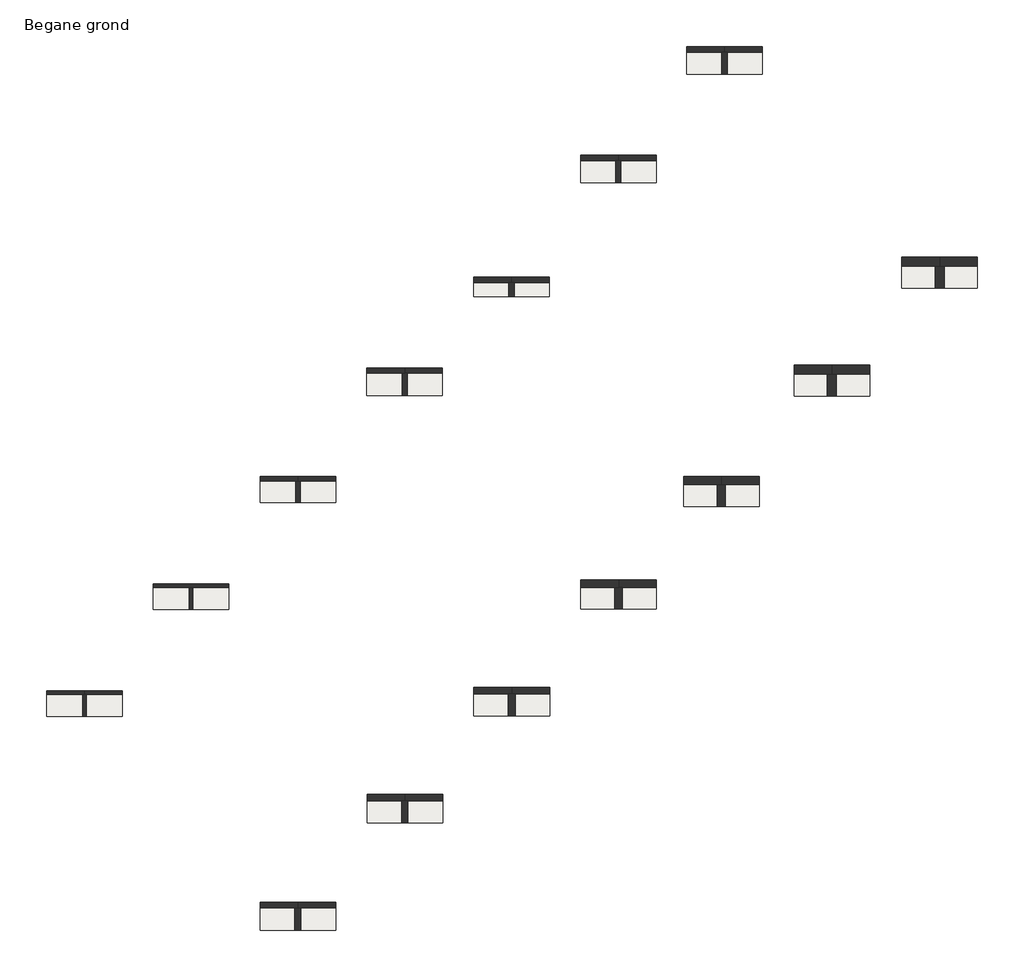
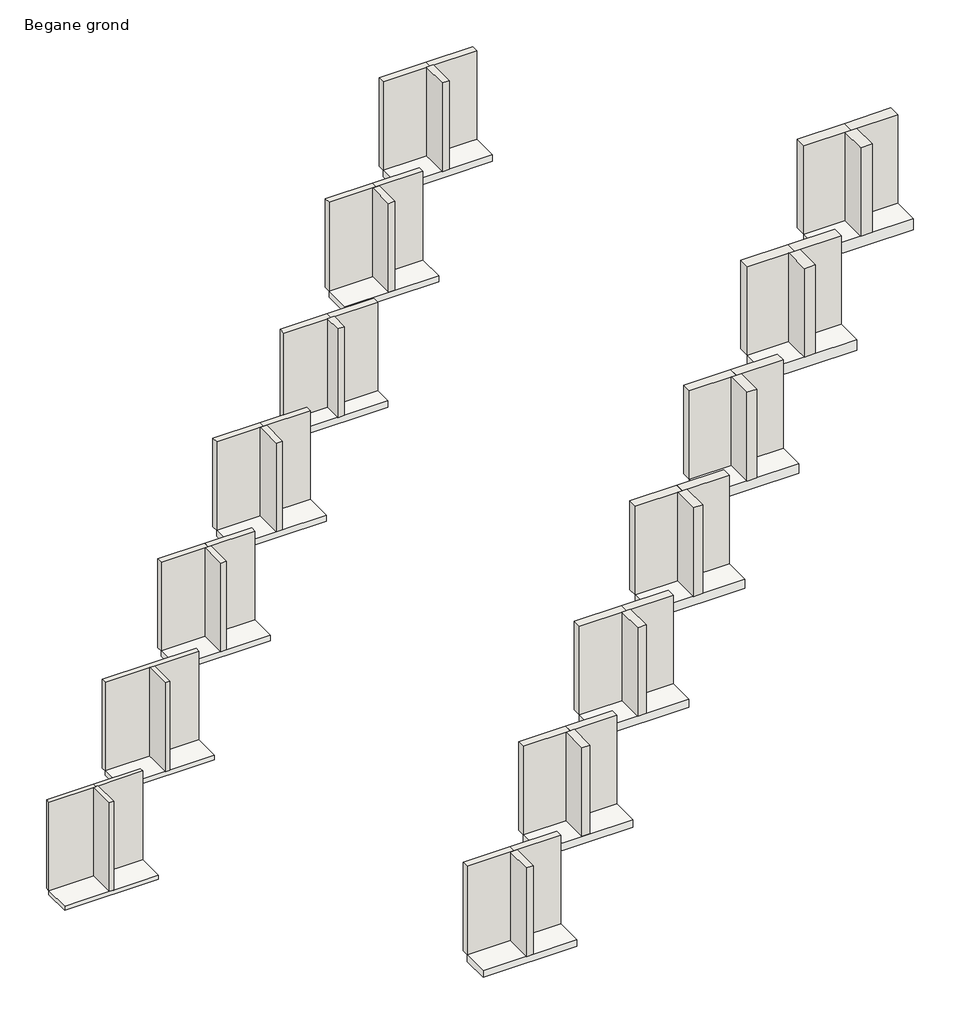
# One storey: 41 walls, 14 slabs.
"""IFC4 building model written with IfcOpenShell, lengths in millimetres."""

from ifc_helpers import new_model, si_unit, frame, origin, origin_with_axes, place, context, project, spatial, polyline, outline, extrude, element, save

model = new_model("IFC4")

# Units and contexts
model_context = context("Model", 3, world=origin())
ifc_project = project(units=[si_unit("LENGTHUNIT", "METRE", prefix="MILLI")], contexts=[model_context])

# Site, building, storey
site = spatial("IfcSite", under=ifc_project)
building = spatial("IfcBuilding", under=site)
storey = spatial("IfcBuildingStorey", under=building, Name="Begane grond", Elevation=0.0)

# Slabs
placement = place(None, origin())
element("IfcSlab", 1, ObjectType="NLRS_23_FL_Naturoll 032_90x580x3500mm", at=placement, inside=storey, context=model_context, shape_type="SweptSolid", body=[
    extrude(outline(polyline([(-2500.3350736, -6538.5333978), (-4500.3350736, -6538.5333978), (-4500.3350736, -5958.5333978), (-2500.3350736, -5958.5333978), (-2500.3350736, -6538.5333978)])), frame((0.0, 0.0, -90.0), z_axis=(0.0, 0.0, 1.0), x_axis=(1.0, 0.0, 0.0)), (0.0, 0.0, 1.0), 90.0),
])
element("IfcSlab", 2, ObjectType="NLRS_23_FL_Naturoll 032_100x580x2700mm", at=placement, inside=storey, context=model_context, shape_type="SweptSolid", body=[
    extrude(outline(polyline([(328.0920512, -3710.1062731), (-1671.9079488, -3710.1062731), (-1671.9079488, -3130.1062731), (328.0920512, -3130.1062731), (328.0920512, -3710.1062731)])), frame((0.0, 0.0, -100.0), z_axis=(0.0, 0.0, 1.0), x_axis=(1.0, 0.0, 0.0)), (0.0, 0.0, 1.0), 100.0),
])
element("IfcSlab", 3, ObjectType="NLRS_23_FL_Naturoll 032_120x580x2700mm", at=placement, inside=storey, context=model_context, shape_type="SweptSolid", body=[
    extrude(outline(polyline([(3156.5191759, -881.6791483), (1156.5191759, -881.6791483), (1156.5191759, -301.6791483), (3156.5191759, -301.6791483), (3156.5191759, -881.6791483)])), frame((0.0, 0.0, -120.0), z_axis=(0.0, 0.0, 1.0), x_axis=(1.0, 0.0, 0.0)), (0.0, 0.0, 1.0), 120.0),
])
element("IfcSlab", 4, ObjectType="NLRS_23_FL_Naturoll 032_135x590x2700mm", at=placement, inside=storey, context=model_context, shape_type="SweptSolid", body=[
    extrude(outline(polyline([(5984.9463006, 1956.7479764), (3984.9463006, 1956.7479764), (3984.9463006, 2546.7479764), (5984.9463006, 2546.7479764), (5984.9463006, 1956.7479764)])), frame((0.0, 0.0, -135.0), z_axis=(0.0, 0.0, 1.0), x_axis=(1.0, 0.0, 0.0)), (0.0, 0.0, 1.0), 135.0),
])
element("IfcSlab", 5, ObjectType="NLRS_23_FL_Naturoll 032_140x380x2700mm", at=placement, inside=storey, context=model_context, shape_type="SweptSolid", body=[
    extrude(outline(polyline([(8813.3734254, 4575.1751012), (6813.3734254, 4575.1751012), (6813.3734254, 4955.1751012), (8813.3734254, 4955.1751012), (8813.3734254, 4575.1751012)])), frame((0.0, 0.0, -140.0), z_axis=(0.0, 0.0, 1.0), x_axis=(1.0, 0.0, 0.0)), (0.0, 0.0, 1.0), 140.0),
])
element("IfcSlab", 6, ObjectType="NLRS_23_FL_Naturoll 032_140x580x2700mm", at=placement, inside=storey, context=model_context, shape_type="SweptSolid", body=[
    extrude(outline(polyline([(11641.8005501, 7603.6022259), (9641.8005501, 7603.6022259), (9641.8005501, 8183.6022259), (11641.8005501, 8183.6022259), (11641.8005501, 7603.6022259)])), frame((0.0, 0.0, -140.0), z_axis=(0.0, 0.0, 1.0), x_axis=(1.0, 0.0, 0.0)), (0.0, 0.0, 1.0), 140.0),
])
element("IfcSlab", 7, ObjectType="NLRS_23_FL_Naturoll 032_150x590x2700mm", at=placement, inside=storey, context=model_context, shape_type="SweptSolid", body=[
    extrude(outline(polyline([(3156.5191759, -11615.3876473), (3156.5191759, -12205.3876473), (1156.5191759, -12205.3876473), (1156.5191759, -11615.3876473), (3156.5191759, -11615.3876473)])), frame((0.0, 0.0, -150.0), z_axis=(0.0, 0.0, 1.0), x_axis=(1.0, 0.0, 0.0)), (0.0, 0.0, 1.0), 150.0),
])
element("IfcSlab", 8, ObjectType="NLRS_23_FL_Naturoll 032_170x580x2350mm", at=placement, inside=storey, context=model_context, shape_type="SweptSolid", body=[
    extrude(outline(polyline([(5986.6811856, -9365.2256376), (3986.6811856, -9365.2256376), (3986.6811856, -8785.2256376), (5986.6811856, -8785.2256376), (5986.6811856, -9365.2256376)])), frame((0.0, 0.0, -170.0), z_axis=(0.0, 0.0, 1.0), x_axis=(1.0, 0.0, 0.0)), (0.0, 0.0, 1.0), 170.0),
])
element("IfcSlab", 9, ObjectType="NLRS_23_FL_Naturoll 032_180x580x2200mm", at=placement, inside=storey, context=model_context, shape_type="SweptSolid", body=[
    extrude(outline(polyline([(8820.0893075, -6531.8175157), (6820.0893075, -6531.8175157), (6820.0893075, -5951.8175157), (8820.0893075, -5951.8175157), (8820.0893075, -6531.8175157)])), frame((0.0, 0.0, -180.0), z_axis=(0.0, 0.0, 1.0), x_axis=(1.0, 0.0, 0.0)), (0.0, 0.0, 1.0), 180.0),
])
element("IfcSlab", 10, ObjectType="NLRS_23_FL_Naturoll 032_200x580x2000mm", at=placement, inside=storey, context=model_context, shape_type="SweptSolid", body=[
    extrude(outline(polyline([(11648.733786, -3703.1730372), (9648.733786, -3703.1730372), (9648.733786, -3123.1730372), (11648.733786, -3123.1730372), (11648.733786, -3703.1730372)])), frame((0.0, 0.0, -200.0), z_axis=(0.0, 0.0, 1.0), x_axis=(1.0, 0.0, 0.0)), (0.0, 0.0, 1.0), 200.0),
])
element("IfcSlab", 11, ObjectType="NLRS_23_FL_Naturoll 032_210x580x2600mm", at=placement, inside=storey, context=model_context, shape_type="SweptSolid", body=[
    extrude(outline(polyline([(14372.9430839, -978.9637393), (12372.9430839, -978.9637393), (12372.9430839, -398.9637393), (14372.9430839, -398.9637393), (14372.9430839, -978.9637393)])), frame((0.0, 0.0, -210.0), z_axis=(0.0, 0.0, 1.0), x_axis=(1.0, 0.0, 0.0)), (0.0, 0.0, 1.0), 210.0),
])
element("IfcSlab", 12, ObjectType="NLRS_23_FL_Naturoll 032_150x580x2700mm", at=placement, inside=storey, context=model_context, shape_type="SweptSolid", body=[
    extrude(outline(polyline([(14451.8107776, 10475.7049126), (12451.8107776, 10475.7049126), (12451.8107776, 11055.7049126), (14451.8107776, 11055.7049126), (14451.8107776, 10475.7049126)])), frame((0.0, 0.0, -150.0), z_axis=(0.0, 0.0, 1.0), x_axis=(1.0, 0.0, 0.0)), (0.0, 0.0, 1.0), 150.0),
])
element("IfcSlab", 13, ObjectType="NLRS_23_FL_Naturoll 032_245x580x2000mm", at=placement, inside=storey, context=model_context, shape_type="SweptSolid", body=[
    extrude(outline(polyline([(20154.1249058, 4802.2180827), (18154.1249058, 4802.2180827), (18154.1249058, 5382.2180827), (20154.1249058, 5382.2180827), (20154.1249058, 4802.2180827)])), frame((0.0, 0.0, -245.0), z_axis=(0.0, 0.0, 1.0), x_axis=(1.0, 0.0, 0.0)), (0.0, 0.0, 1.0), 245.0),
])
element("IfcSlab", 14, ObjectType="NLRS_23_FL_Naturoll 032_240x580x2300mm", at=placement, inside=storey, context=model_context, shape_type="SweptSolid", body=[
    extrude(outline(polyline([(17300.9053054, 1948.9984822), (15300.9053054, 1948.9984822), (15300.9053054, 2528.9984822), (17300.9053054, 2528.9984822), (17300.9053054, 1948.9984822)])), frame((0.0, 0.0, -240.0), z_axis=(0.0, 0.0, 1.0), x_axis=(1.0, 0.0, 0.0)), (0.0, 0.0, 1.0), 240.0),
])

# Walls
element("IfcWall", 15, ObjectType="NLRS_21_WA_Naturoll 032_90x580x3500mm", at=placement, inside=storey, context=model_context, shape_type="SweptSolid", body=[
    extrude(outline(polyline([(-3500.3350736, -5958.5333978), (-4500.3350736, -5958.5333978), (-4500.3350736, -5868.5333978), (-3500.3350736, -5868.5333978), (-3500.3350736, -5958.5333978)])), origin_with_axes(), (0.0, 0.0, 1.0), 2000.0),
])
element("IfcWall", 16, ObjectType="NLRS_21_WA_Naturoll 032_90x580x3500mm", at=placement, inside=storey, context=model_context, shape_type="SweptSolid", body=[
    extrude(outline(polyline([(-2500.3350736, -5958.5333978), (-3500.3350736, -5958.5333978), (-3500.3350736, -5868.5333978), (-2500.3350736, -5868.5333978), (-2500.3350736, -5958.5333978)])), origin_with_axes(), (0.0, 0.0, 1.0), 2000.0),
])
element("IfcWall", 17, ObjectType="NLRS_21_WA_Naturoll 032_90x580x3500mm", at=placement, inside=storey, context=model_context, shape_type="SweptSolid", body=[
    extrude(outline(polyline([(-3545.3350736, -6538.5333978), (-3545.3350736, -5958.5333978), (-3455.3350736, -5958.5333978), (-3455.3350736, -6538.5333978), (-3545.3350736, -6538.5333978)])), origin_with_axes(), (0.0, 0.0, 1.0), 2000.0),
])
element("IfcWall", 18, ObjectType="NLRS_21_WA_Naturoll 032_100x580x2700mm", at=placement, inside=storey, context=model_context, shape_type="SweptSolid", body=[
    extrude(outline(polyline([(328.0920512, -3130.1062731), (-1671.9079488, -3130.1062731), (-1671.9079488, -3030.1062731), (328.0920512, -3030.1062731), (328.0920512, -3130.1062731)])), origin_with_axes(), (0.0, 0.0, 1.0), 2000.0),
])
element("IfcWall", 19, ObjectType="NLRS_21_WA_Naturoll 032_100x580x2700mm", at=placement, inside=storey, context=model_context, shape_type="SweptSolid", body=[
    extrude(outline(polyline([(-721.9079488, -3710.1062731), (-721.9079488, -3130.1062731), (-621.9079488, -3130.1062731), (-621.9079488, -3710.1062731), (-721.9079488, -3710.1062731)])), origin_with_axes(), (0.0, 0.0, 1.0), 2000.0),
])
element("IfcWall", 20, ObjectType="NLRS_21_WA_Naturoll 032_120x580x2700mm", at=placement, inside=storey, context=model_context, shape_type="SweptSolid", body=[
    extrude(outline(polyline([(2156.5191759, -301.6791483), (1156.5191759, -301.6791483), (1156.5191759, -181.6791483), (2156.5191759, -181.6791483), (2156.5191759, -301.6791483)])), origin_with_axes(), (0.0, 0.0, 1.0), 2000.0),
])
element("IfcWall", 21, ObjectType="NLRS_21_WA_Naturoll 032_120x580x2700mm", at=placement, inside=storey, context=model_context, shape_type="SweptSolid", body=[
    extrude(outline(polyline([(3156.5191759, -301.6791483), (2156.5191759, -301.6791483), (2156.5191759, -181.6791483), (3156.5191759, -181.6791483), (3156.5191759, -301.6791483)])), origin_with_axes(), (0.0, 0.0, 1.0), 2000.0),
])
element("IfcWall", 22, ObjectType="NLRS_21_WA_Naturoll 032_120x580x2700mm", at=placement, inside=storey, context=model_context, shape_type="SweptSolid", body=[
    extrude(outline(polyline([(2096.5191759, -881.6791483), (2096.5191759, -301.6791483), (2216.5191759, -301.6791483), (2216.5191759, -881.6791483), (2096.5191759, -881.6791483)])), origin_with_axes(), (0.0, 0.0, 1.0), 2000.0),
])
element("IfcWall", 23, ObjectType="NLRS_21_WA_Naturoll 032_135x590x2700mm", at=placement, inside=storey, context=model_context, shape_type="SweptSolid", body=[
    extrude(outline(polyline([(4984.9463006, 2546.7479764), (3984.9463006, 2546.7479764), (3984.9463006, 2681.7479764), (4984.9463006, 2681.7479764), (4984.9463006, 2546.7479764)])), origin_with_axes(), (0.0, 0.0, 1.0), 2000.0),
])
element("IfcWall", 24, ObjectType="NLRS_21_WA_Naturoll 032_135x590x2700mm", at=placement, inside=storey, context=model_context, shape_type="SweptSolid", body=[
    extrude(outline(polyline([(5984.9463006, 2546.7479764), (4984.9463006, 2546.7479764), (4984.9463006, 2681.7479764), (5984.9463006, 2681.7479764), (5984.9463006, 2546.7479764)])), origin_with_axes(), (0.0, 0.0, 1.0), 2000.0),
])
element("IfcWall", 25, ObjectType="NLRS_21_WA_Naturoll 032_135x590x2700mm", at=placement, inside=storey, context=model_context, shape_type="SweptSolid", body=[
    extrude(outline(polyline([(4917.4463006, 1956.7479764), (4917.4463006, 2546.7479764), (5052.4463006, 2546.7479764), (5052.4463006, 1956.7479764), (4917.4463006, 1956.7479764)])), origin_with_axes(), (0.0, 0.0, 1.0), 2000.0),
])
element("IfcWall", 26, ObjectType="NLRS_21_WA_Naturoll 032_140x380x2700mm", at=placement, inside=storey, context=model_context, shape_type="SweptSolid", body=[
    extrude(outline(polyline([(7813.3734254, 4955.1751012), (6813.3734254, 4955.1751012), (6813.3734254, 5095.1751012), (7813.3734254, 5095.1751012), (7813.3734254, 4955.1751012)])), origin_with_axes(), (0.0, 0.0, 1.0), 2000.0),
])
element("IfcWall", 27, ObjectType="NLRS_21_WA_Naturoll 032_140x380x2700mm", at=placement, inside=storey, context=model_context, shape_type="SweptSolid", body=[
    extrude(outline(polyline([(8813.3734254, 4955.1751012), (7813.3734254, 4955.1751012), (7813.3734254, 5095.1751012), (8813.3734254, 5095.1751012), (8813.3734254, 4955.1751012)])), origin_with_axes(), (0.0, 0.0, 1.0), 2000.0),
])
element("IfcWall", 28, ObjectType="NLRS_21_WA_Naturoll 032_140x380x2700mm", at=placement, inside=storey, context=model_context, shape_type="SweptSolid", body=[
    extrude(outline(polyline([(7743.3734254, 4575.1751012), (7743.3734254, 4955.1751012), (7883.3734254, 4955.1751012), (7883.3734254, 4575.1751012), (7743.3734254, 4575.1751012)])), origin_with_axes(), (0.0, 0.0, 1.0), 2000.0),
])
element("IfcWall", 29, ObjectType="NLRS_21_WA_Naturoll 032_140x580x2700mm", at=placement, inside=storey, context=model_context, shape_type="SweptSolid", body=[
    extrude(outline(polyline([(10641.8005501, 8183.6022259), (9641.8005501, 8183.6022259), (9641.8005501, 8323.6022259), (10641.8005501, 8323.6022259), (10641.8005501, 8183.6022259)])), origin_with_axes(), (0.0, 0.0, 1.0), 2000.0),
])
element("IfcWall", 30, ObjectType="NLRS_21_WA_Naturoll 032_140x580x2700mm", at=placement, inside=storey, context=model_context, shape_type="SweptSolid", body=[
    extrude(outline(polyline([(11641.8005501, 8183.6022259), (10641.8005501, 8183.6022259), (10641.8005501, 8323.6022259), (11641.8005501, 8323.6022259), (11641.8005501, 8183.6022259)])), origin_with_axes(), (0.0, 0.0, 1.0), 2000.0),
])
element("IfcWall", 31, ObjectType="NLRS_21_WA_Naturoll 032_140x580x2700mm", at=placement, inside=storey, context=model_context, shape_type="SweptSolid", body=[
    extrude(outline(polyline([(10571.8005501, 7603.6022259), (10571.8005501, 8183.6022259), (10711.8005501, 8183.6022259), (10711.8005501, 7603.6022259), (10571.8005501, 7603.6022259)])), origin_with_axes(), (0.0, 0.0, 1.0), 2000.0),
])
element("IfcWall", 32, ObjectType="NLRS_21_WA_Naturoll 032_150x590x2700mm", at=placement, inside=storey, context=model_context, shape_type="SweptSolid", body=[
    extrude(outline(polyline([(2156.5191759, -11615.3876473), (1156.5191759, -11615.3876473), (1156.5191759, -11465.3876473), (2156.5191759, -11465.3876473), (2156.5191759, -11615.3876473)])), origin_with_axes(), (0.0, 0.0, 1.0), 2000.0),
])
element("IfcWall", 33, ObjectType="NLRS_21_WA_Naturoll 032_150x590x2700mm", at=placement, inside=storey, context=model_context, shape_type="SweptSolid", body=[
    extrude(outline(polyline([(3156.5191759, -11615.3876473), (2156.5191759, -11615.3876473), (2156.5191759, -11465.3876473), (3156.5191759, -11465.3876473), (3156.5191759, -11615.3876473)])), origin_with_axes(), (0.0, 0.0, 1.0), 2000.0),
])
element("IfcWall", 34, ObjectType="NLRS_21_WA_Naturoll 032_150x590x2700mm", at=placement, inside=storey, context=model_context, shape_type="SweptSolid", body=[
    extrude(outline(polyline([(2076.5191759, -12205.3876473), (2076.5191759, -11615.3876473), (2226.5191759, -11615.3876473), (2226.5191759, -12205.3876473), (2076.5191759, -12205.3876473)])), origin_with_axes(), (0.0, 0.0, 1.0), 2000.0),
])
element("IfcWall", 35, ObjectType="NLRS_21_WA_Naturoll 032_170x580x2350mm", at=placement, inside=storey, context=model_context, shape_type="SweptSolid", body=[
    extrude(outline(polyline([(4986.6811856, -8785.2256376), (3986.6811856, -8785.2256376), (3986.6811856, -8615.2256376), (4986.6811856, -8615.2256376), (4986.6811856, -8785.2256376)])), origin_with_axes(), (0.0, 0.0, 1.0), 2000.0),
])
element("IfcWall", 36, ObjectType="NLRS_21_WA_Naturoll 032_170x580x2350mm", at=placement, inside=storey, context=model_context, shape_type="SweptSolid", body=[
    extrude(outline(polyline([(5986.6811856, -8785.2256376), (4986.6811856, -8785.2256376), (4986.6811856, -8615.2256376), (5986.6811856, -8615.2256376), (5986.6811856, -8785.2256376)])), origin_with_axes(), (0.0, 0.0, 1.0), 2000.0),
])
element("IfcWall", 37, ObjectType="NLRS_21_WA_Naturoll 032_170x580x2350mm", at=placement, inside=storey, context=model_context, shape_type="SweptSolid", body=[
    extrude(outline(polyline([(4901.6811856, -9365.2256376), (4901.6811856, -8785.2256376), (5071.6811856, -8785.2256376), (5071.6811856, -9365.2256376), (4901.6811856, -9365.2256376)])), origin_with_axes(), (0.0, 0.0, 1.0), 2000.0),
])
element("IfcWall", 38, ObjectType="NLRS_21_WA_Naturoll 032_180x580x2200mm", at=placement, inside=storey, context=model_context, shape_type="SweptSolid", body=[
    extrude(outline(polyline([(7820.0893075, -5951.8175157), (6820.0893075, -5951.8175157), (6820.0893075, -5771.8175157), (7820.0893075, -5771.8175157), (7820.0893075, -5951.8175157)])), origin_with_axes(), (0.0, 0.0, 1.0), 2000.0),
])
element("IfcWall", 39, ObjectType="NLRS_21_WA_Naturoll 032_180x580x2200mm", at=placement, inside=storey, context=model_context, shape_type="SweptSolid", body=[
    extrude(outline(polyline([(8820.0893075, -5951.8175157), (7820.0893075, -5951.8175157), (7820.0893075, -5771.8175157), (8820.0893075, -5771.8175157), (8820.0893075, -5951.8175157)])), origin_with_axes(), (0.0, 0.0, 1.0), 2000.0),
])
element("IfcWall", 40, ObjectType="NLRS_21_WA_Naturoll 032_180x580x2200mm", at=placement, inside=storey, context=model_context, shape_type="SweptSolid", body=[
    extrude(outline(polyline([(7730.0893075, -6531.8175157), (7730.0893075, -5951.8175157), (7910.0893075, -5951.8175157), (7910.0893075, -6531.8175157), (7730.0893075, -6531.8175157)])), origin_with_axes(), (0.0, 0.0, 1.0), 2000.0),
])
element("IfcWall", 41, ObjectType="NLRS_21_WA_Naturoll 032_200x580x2000mm", at=placement, inside=storey, context=model_context, shape_type="SweptSolid", body=[
    extrude(outline(polyline([(10648.733786, -3123.1730372), (9648.733786, -3123.1730372), (9648.733786, -2923.1730372), (10648.733786, -2923.1730372), (10648.733786, -3123.1730372)])), origin_with_axes(), (0.0, 0.0, 1.0), 2000.0),
])
element("IfcWall", 42, ObjectType="NLRS_21_WA_Naturoll 032_200x580x2000mm", at=placement, inside=storey, context=model_context, shape_type="SweptSolid", body=[
    extrude(outline(polyline([(11648.733786, -3123.1730372), (10648.733786, -3123.1730372), (10648.733786, -2923.1730372), (11648.733786, -2923.1730372), (11648.733786, -3123.1730372)])), origin_with_axes(), (0.0, 0.0, 1.0), 2000.0),
])
element("IfcWall", 43, ObjectType="NLRS_21_WA_Naturoll 032_200x580x2000mm", at=placement, inside=storey, context=model_context, shape_type="SweptSolid", body=[
    extrude(outline(polyline([(10548.733786, -3703.1730372), (10548.733786, -3123.1730372), (10748.733786, -3123.1730372), (10748.733786, -3703.1730372), (10548.733786, -3703.1730372)])), origin_with_axes(), (0.0, 0.0, 1.0), 2000.0),
])
element("IfcWall", 44, ObjectType="NLRS_21_WA_Naturoll 032_210x580x2600mm", at=placement, inside=storey, context=model_context, shape_type="SweptSolid", body=[
    extrude(outline(polyline([(13372.9430839, -398.9637393), (12372.9430839, -398.9637393), (12372.9430839, -188.9637393), (13372.9430839, -188.9637393), (13372.9430839, -398.9637393)])), origin_with_axes(), (0.0, 0.0, 1.0), 2000.0),
])
element("IfcWall", 45, ObjectType="NLRS_21_WA_Naturoll 032_210x580x2600mm", at=placement, inside=storey, context=model_context, shape_type="SweptSolid", body=[
    extrude(outline(polyline([(14372.9430839, -398.9637393), (13372.9430839, -398.9637393), (13372.9430839, -188.9637393), (14372.9430839, -188.9637393), (14372.9430839, -398.9637393)])), origin_with_axes(), (0.0, 0.0, 1.0), 2000.0),
])
element("IfcWall", 46, ObjectType="NLRS_21_WA_Naturoll 032_210x580x2600mm", at=placement, inside=storey, context=model_context, shape_type="SweptSolid", body=[
    extrude(outline(polyline([(13267.9430839, -978.9637393), (13267.9430839, -398.9637393), (13477.9430839, -398.9637393), (13477.9430839, -978.9637393), (13267.9430839, -978.9637393)])), origin_with_axes(), (0.0, 0.0, 1.0), 2000.0),
])
element("IfcWall", 47, ObjectType="NLRS_21_WA_Naturoll 032_150x580x2700mm", at=placement, inside=storey, context=model_context, shape_type="SweptSolid", body=[
    extrude(outline(polyline([(13451.8107776, 11055.7049126), (12451.8107776, 11055.7049126), (12451.8107776, 11205.7049126), (13451.8107776, 11205.7049126), (13451.8107776, 11055.7049126)])), origin_with_axes(), (0.0, 0.0, 1.0), 2000.0),
])
element("IfcWall", 48, ObjectType="NLRS_21_WA_Naturoll 032_150x580x2700mm", at=placement, inside=storey, context=model_context, shape_type="SweptSolid", body=[
    extrude(outline(polyline([(14451.8107776, 11055.7049126), (13451.8107776, 11055.7049126), (13451.8107776, 11205.7049126), (14451.8107776, 11205.7049126), (14451.8107776, 11055.7049126)])), origin_with_axes(), (0.0, 0.0, 1.0), 2000.0),
])
element("IfcWall", 49, ObjectType="NLRS_21_WA_Naturoll 032_150x580x2700mm", at=placement, inside=storey, context=model_context, shape_type="SweptSolid", body=[
    extrude(outline(polyline([(13376.8107776, 10475.7049126), (13376.8107776, 11055.7049126), (13526.8107776, 11055.7049126), (13526.8107776, 10475.7049126), (13376.8107776, 10475.7049126)])), origin_with_axes(), (0.0, 0.0, 1.0), 2000.0),
])
element("IfcWall", 50, ObjectType="NLRS_21_WA_Naturoll 032_245x580x2000mm", at=placement, inside=storey, context=model_context, shape_type="SweptSolid", body=[
    extrude(outline(polyline([(19154.1249058, 5382.2180827), (18154.1249058, 5382.2180827), (18154.1249058, 5627.2180827), (19154.1249058, 5627.2180827), (19154.1249058, 5382.2180827)])), origin_with_axes(), (0.0, 0.0, 1.0), 2000.0),
])
element("IfcWall", 51, ObjectType="NLRS_21_WA_Naturoll 032_245x580x2000mm", at=placement, inside=storey, context=model_context, shape_type="SweptSolid", body=[
    extrude(outline(polyline([(20154.1249058, 5382.2180827), (19154.1249058, 5382.2180827), (19154.1249058, 5627.2180827), (20154.1249058, 5627.2180827), (20154.1249058, 5382.2180827)])), origin_with_axes(), (0.0, 0.0, 1.0), 2000.0),
])
element("IfcWall", 52, ObjectType="NLRS_21_WA_Naturoll 032_245x580x2000mm", at=placement, inside=storey, context=model_context, shape_type="SweptSolid", body=[
    extrude(outline(polyline([(19031.6249058, 4802.2180827), (19031.6249058, 5382.2180827), (19276.6249058, 5382.2180827), (19276.6249058, 4802.2180827), (19031.6249058, 4802.2180827)])), origin_with_axes(), (0.0, 0.0, 1.0), 2000.0),
])
element("IfcWall", 53, ObjectType="NLRS_21_WA_Naturoll 032_240x580x2300mm", at=placement, inside=storey, context=model_context, shape_type="SweptSolid", body=[
    extrude(outline(polyline([(16300.9053054, 2528.9984822), (15300.9053054, 2528.9984822), (15300.9053054, 2768.9984822), (16300.9053054, 2768.9984822), (16300.9053054, 2528.9984822)])), origin_with_axes(), (0.0, 0.0, 1.0), 2000.0),
])
element("IfcWall", 54, ObjectType="NLRS_21_WA_Naturoll 032_240x580x2300mm", at=placement, inside=storey, context=model_context, shape_type="SweptSolid", body=[
    extrude(outline(polyline([(17300.9053054, 2528.9984822), (16300.9053054, 2528.9984822), (16300.9053054, 2768.9984822), (17300.9053054, 2768.9984822), (17300.9053054, 2528.9984822)])), origin_with_axes(), (0.0, 0.0, 1.0), 2000.0),
])
element("IfcWall", 55, ObjectType="NLRS_21_WA_Naturoll 032_240x580x2300mm", at=placement, inside=storey, context=model_context, shape_type="SweptSolid", body=[
    extrude(outline(polyline([(16180.9053054, 1948.9984822), (16180.9053054, 2528.9984822), (16420.9053054, 2528.9984822), (16420.9053054, 1948.9984822), (16180.9053054, 1948.9984822)])), origin_with_axes(), (0.0, 0.0, 1.0), 2000.0),
])

save(model, "model.ifc")
